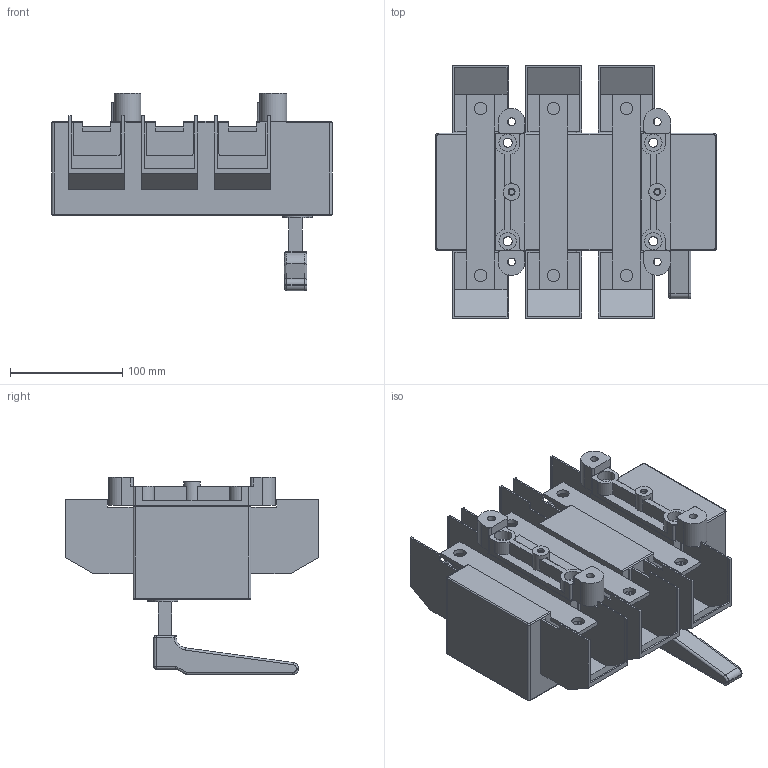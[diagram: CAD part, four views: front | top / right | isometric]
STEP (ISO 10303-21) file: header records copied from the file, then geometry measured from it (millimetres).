
FILE_DESCRIPTION(/* description */ (''),/* implementation_level */ '2;1');
FILE_NAME(/* name */ 'RA400 P3-R z oslona zaciskow.stp',/* time_stamp */ '2021-08-18T13:38:17+02:00',/* author */ (''),/* organization */ (''),/* preprocessor_version */ 'ST-DEVELOPER v18.1',/* originating_system */ 'SIEMENS PLM Software NX 1965',/* authorisation */ '');
FILE_SCHEMA (('AUTOMOTIVE_DESIGN { 1 0 10303 214 3 1 1 1 }'));
Length unit declared in the file: millimetre
Products named in the file (1): RA400_P3-R_z_oslona_zaciskow
Bounding box: 250 x 225 x 176 mm (x, y, z)
Volume: 2409030.2 mm3; surface area: 297454 mm2
Topology: 1 solids, 1 shells, 396 faces, 1063 edges, 687 vertices
Faces by surface type: plane 255, cylinder 119, bspline 8, torus 8, sphere 6
Full cylindrical faces by diameter (mm): 4.8 x2, 6.2 x2, 7 x4, 8.2 x4, 11 x6, 14 x4, 15 x2, 15.5 x4
Entity records: 12253 total; most frequent: CARTESIAN_POINT 2259, DIRECTION 2053, ORIENTED_EDGE 2042, EDGE_CURVE 1021, LINE 759, VECTOR 759, VERTEX_POINT 676, AXIS2_PLACEMENT_3D 647
